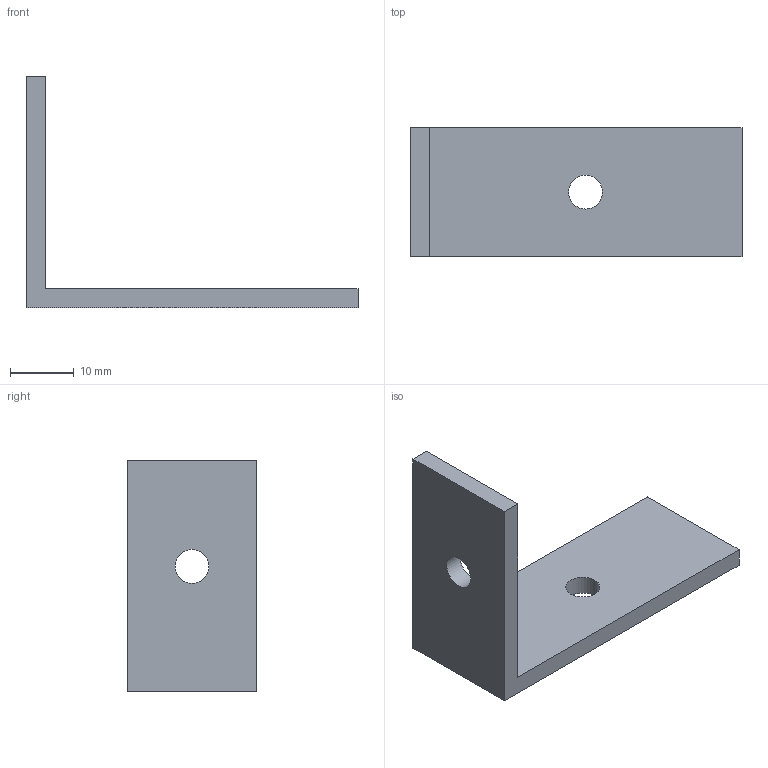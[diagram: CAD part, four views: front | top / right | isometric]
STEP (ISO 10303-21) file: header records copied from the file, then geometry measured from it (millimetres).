
FILE_DESCRIPTION(('Mechanical CAD reference from nasji.com'),'2;1');
FILE_NAME('NASJI.step','',(''),(''),'','NASJI distribution','');
FILE_SCHEMA(('AUTOMOTIVE_DESIGN { 1 0 10303 214 1 1 1 1 }'));
Length unit declared in the file: millimetre
Products named in the file (1): Open CASCADE STEP translator 7.8 151
Bounding box: 51.88 x 20.17 x 36.2 mm (x, y, z)
Volume: 5015.8 mm3; surface area: 4075.3 mm2
Topology: 1 solids, 1 shells, 10 faces, 24 edges, 16 vertices
Faces by surface type: plane 8, cylinder 2
Full cylindrical faces by diameter (mm): 5.3 x2
Entity records: 626 total; most frequent: CARTESIAN_POINT 113, DIRECTION 94, LINE 62, VECTOR 62, ORIENTED_EDGE 48, PCURVE 48, DEFINITIONAL_REPRESENTATION 48, EDGE_CURVE 24
